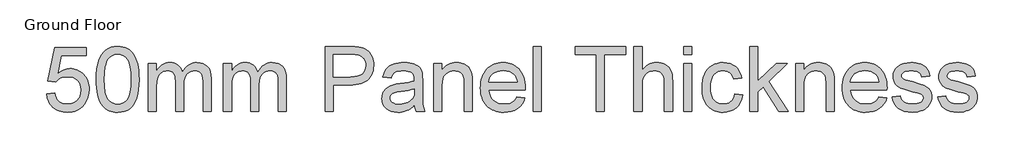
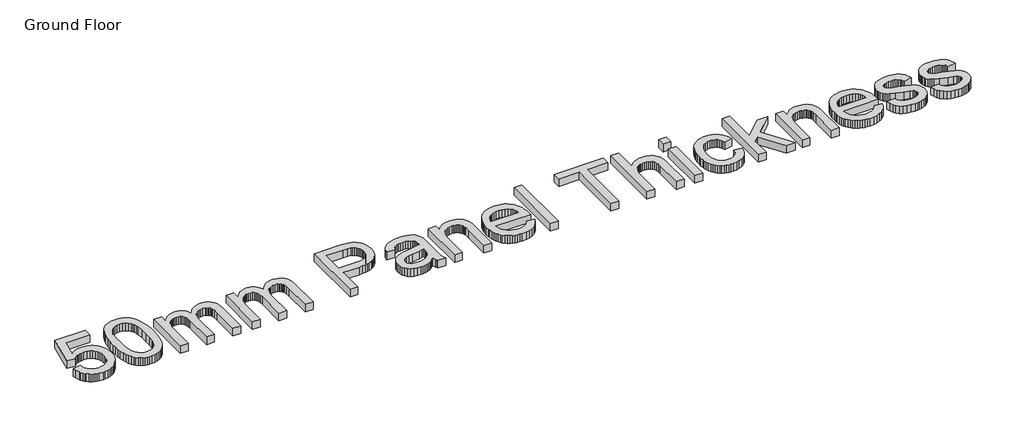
# One storey, part 6 of 8: 1 proxy.
"""IFC4 building model written with IfcOpenShell, lengths in millimetres."""

from ifc_helpers import new_model, si_unit, origin, origin_with_axes, place, context, project, spatial, polyline, outline, extrude, element, save

model = new_model("IFC4")

# Units and contexts
model_context = context("Model", 3, world=origin())
ifc_project = project(units=[si_unit("LENGTHUNIT", "METRE", prefix="MILLI")], contexts=[model_context])

# Site, building, storey
site = spatial("IfcSite", under=ifc_project)
building = spatial("IfcBuilding", under=site)
storey = spatial("IfcBuildingStorey", under=building, Name="Ground Floor", Elevation=0.0)

# Proxy
placement = place(None, origin())
element("IfcBuildingElementProxy", 1, Name="1200mm Arial", ObjectType="1200mm Arial", at=placement, inside=storey, context=model_context, shape_type="SweptSolid", body=[
    extrude(outline(polyline([(-51682.9165846, 10823.3154453), (-51536.0074937, 10841.6790817), (-51525.0323516, 10794.4518977), (-51509.0359028, 10753.4834141), (-51488.0181471, 10718.7736307), (-51461.9790846, 10690.3225476), (-51430.972515, 10668.1660313), (-51395.052238, 10652.3399482), (-51354.2182536, 10642.8442983), (-51308.4705619, 10639.6790817), (-51252.5188573, 10644.0816918), (-51203.1665846, 10657.289522), (-51160.4137437, 10679.3025725), (-51124.2603346, 10710.120843), (-51095.5133531, 10748.2200085), (-51074.9797948, 10792.0757436), (-51062.6596599, 10841.6880483), (-51058.5529482, 10897.0569226), (-51062.3996279, 10949.3861129), (-51073.939667, 10995.904934), (-51093.1730654, 11036.6133857), (-51120.0998232, 11071.511468), (-51154.8096066, 11099.5052536), (-51197.3920818, 11119.5008146), (-51247.8472487, 11131.4981513), (-51306.1751073, 11135.4972635), (-51343.5031436, 11133.9012053), (-51377.4417977, 11129.1130305), (-51407.9910697, 11121.1327394), (-51435.1509596, 11109.9603317), (-51481.2393829, 11080.6215533), (-51517.6438573, 11043.6790817), (-51664.5529482, 11062.042718), (-51536.0074937, 11668.042718), (-50966.7347664, 11668.042718), (-50966.7347664, 11521.1336271), (-51417.217721, 11521.1336271), (-51480.0557891, 11197.4745362), (-51428.2107963, 11234.6322067), (-51375.1104766, 11261.1733999), (-51320.7548303, 11277.0981158), (-51265.1438573, 11282.4063544), (-51228.6429917, 11280.7609798), (-51193.5992018, 11275.8248558), (-51160.0124875, 11267.5979826), (-51127.8828488, 11256.0803601), (-51097.2102858, 11241.2719883), (-51067.9947984, 11223.1728672), (-51040.2363866, 11201.7829968), (-51013.9350505, 11177.1023771), (-50989.9605521, 11149.8348878), (-50969.1826535, 11120.6844084), (-50951.6013547, 11089.6509389), (-50937.2166556, 11056.7344794), (-50926.0285564, 11021.9350298), (-50918.0370569, 10985.2525902), (-50913.2421572, 10946.6871605), (-50911.6438573, 10906.2387408), (-50917.4004269, 10830.130076), (-50934.6701357, 10759.3296499), (-50963.4529838, 10693.8374624), (-51003.748971, 10633.6535135), (-51032.9980832, 10600.6339379), (-51064.7937153, 10572.0169723), (-51099.1358673, 10547.8026168), (-51136.0245391, 10527.9908715), (-51175.4597309, 10512.5817362), (-51217.4414426, 10501.5752109), (-51261.9696741, 10494.9712958), (-51309.0444255, 10492.7699908), (-51384.8571918, 10498.4279276), (-51420.0130645, 10505.5003486), (-51453.3352636, 10515.4017379), (-51484.823789, 10528.1320957), (-51514.4786407, 10543.6914219), (-51542.2998188, 10562.0797165), (-51568.2873232, 10583.2969794), (-51592.0152396, 10606.8500467), (-51613.0576535, 10632.2457543), (-51631.4145649, 10659.4841021), (-51647.0859738, 10688.5650902), (-51670.3722842, 10752.2549872), (-51682.9165846, 10823.3154453)])), origin_with_axes(), (0.0, 0.0, 1.0), 150.0),
    extrude(outline(polyline([(-50783.0984028, 11089.3012408), (-50780.3994504, 11188.1223523), (-50772.3025931, 11277.4209141), (-50758.8078311, 11357.1969261), (-50739.9151641, 11427.4503885), (-50715.705292, 11488.7551648), (-50686.2589141, 11541.6851186), (-50651.5760306, 11586.24025), (-50611.6566414, 11622.420559), (-50566.3662472, 11650.4143445), (-50515.5703488, 11670.4099055), (-50459.2689461, 11682.4072422), (-50397.4620391, 11686.4063544), (-50351.0149511, 11684.0391669), (-50306.9350505, 11676.9376044), (-50265.2223374, 11665.1016669), (-50225.8768119, 11648.5313544), (-50189.8489355, 11627.5046321), (-50158.0891698, 11602.2994652), (-50130.597515, 11572.9158537), (-50107.373971, 11539.3537976), (-50087.2528772, 11501.7477962), (-50069.0685732, 11460.2323487), (-50038.5103346, 11365.4731158), (-50026.8357963, 11309.7455767), (-50018.4968403, 11245.1410845), (-50013.4934667, 11171.6596392), (-50011.8256755, 11089.3012408), (-50014.4977281, 10991.1077926), (-50022.5138857, 10902.2575618), (-50035.8741485, 10822.7505483), (-50054.5785164, 10752.5867521), (-50078.6000896, 10691.255076), (-50107.9119681, 10638.2444226), (-50142.5141521, 10593.5547919), (-50182.4066414, 10557.186184), (-50227.7508353, 10529.0040994), (-50278.7081329, 10508.8740391), (-50335.2785342, 10496.7960029), (-50397.4620391, 10492.7699908), (-50439.0671528, 10494.5184815), (-50478.3768119, 10499.7639538), (-50515.3910164, 10508.5064077), (-50550.1097664, 10520.745843), (-50582.5330619, 10536.48226), (-50612.6609028, 10555.7156584), (-50640.4932891, 10578.4460384), (-50666.030221, 10604.6733999), (-50693.4680761, 10646.2022972), (-50717.2475505, 10693.1739325), (-50737.3686443, 10745.5883058), (-50753.8313573, 10803.4454169), (-50766.6356897, 10866.745266), (-50775.7816414, 10935.487853), (-50781.2692124, 11009.6731779), (-50783.0984028, 11089.3012408)]), holes=[polyline([(-50636.1893119, 11089.5881726), (-50631.8853346, 10961.8766136), (-50618.9734028, 10858.5004595), (-50609.2894539, 10815.9381593), (-50597.4535164, 10779.4597102), (-50583.4655903, 10749.0651124), (-50567.3256755, 10724.7543658), (-50530.8853346, 10687.533929), (-50490.4279482, 10660.9479027), (-50445.9535164, 10644.9962869), (-50397.4620391, 10639.6790817), (-50348.9705619, 10645.0142202), (-50304.4961301, 10661.0196357), (-50264.0387437, 10687.6953281), (-50227.5984028, 10725.0412976), (-50211.458488, 10749.4103272), (-50197.4705619, 10779.8363082), (-50185.6346244, 10816.3192406), (-50175.9506755, 10858.8591243), (-50163.0387437, 10962.1097457), (-50158.7347664, 11089.5881726), (-50162.8952778, 11213.9193161), (-50175.3768119, 11315.4752465), (-50184.7379624, 11357.7125068), (-50196.1793687, 11394.2559638), (-50209.7010306, 11425.1056176), (-50225.3029482, 11450.261468), (-50261.133559, 11489.3021286), (-50302.0572096, 11517.1883146), (-50348.0738999, 11533.9200263), (-50399.1836301, 11539.4972635), (-50447.424042, 11534.5835561), (-50491.1452778, 11519.842434), (-50530.3473374, 11495.273897), (-50565.030221, 11460.8779453), (-50581.7081329, 11433.045559), (-50596.1623232, 11399.904934), (-50608.392792, 11361.4560703), (-50618.3995391, 11317.698968), (-50631.7418687, 11214.2600476), (-50636.1893119, 11089.5881726)])]), origin_with_axes(), (0.0, 0.0, 1.0), 150.0),
    extrude(outline(polyline([(-49846.5529482, 10511.1336271), (-49846.5529482, 11374.2245362), (-49699.6438573, 11374.2245362), (-49699.6438573, 11232.1932862), (-49679.1282323, 11266.5802713), (-49655.4563573, 11297.4344084), (-49628.6282323, 11324.7556975), (-49598.6438573, 11348.5441385), (-49565.9874298, 11367.8134034), (-49531.1431471, 11381.5771641), (-49494.1110093, 11389.8354205), (-49454.8910164, 11392.5881726), (-49412.0126428, 11389.7816207), (-49373.1871812, 11381.3619652), (-49338.4146315, 11367.329206), (-49307.6949937, 11347.683343), (-49281.117934, 11322.9803068), (-49258.7731187, 11293.7760277), (-49240.6605477, 11260.0705057), (-49226.780221, 11221.8637408), (-49200.9473907, 11261.8772795), (-49173.2315704, 11296.5556797), (-49143.63276, 11325.8989414), (-49112.1509596, 11349.9070646), (-49078.7861691, 11368.5800494), (-49043.5383886, 11381.9178956), (-49006.407618, 11389.9206033), (-48967.3938573, 11392.5881726), (-48908.5818012, 11388.149696), (-48856.9609738, 11374.8342663), (-48812.5313751, 11352.6418835), (-48775.2930051, 11321.5725476), (-48745.8555938, 11281.2675938), (-48724.8288715, 11231.3683573), (-48712.2128382, 11171.8748381), (-48708.0074937, 11102.7870362), (-48708.0074937, 10511.1336271), (-48854.9165846, 10511.1336271), (-48854.9165846, 11039.6620362), (-48858.3238999, 11112.9372493), (-48868.545846, 11162.3253885), (-48876.741336, 11180.1420611), (-48887.6985448, 11196.1474766), (-48901.4174724, 11210.341635), (-48917.8981187, 11222.7245362), (-48936.5397203, 11232.7671499), (-48956.7415136, 11239.9404453), (-49001.8256755, 11245.6790817), (-49043.457689, 11242.0027678), (-49081.4133886, 11230.973826), (-49115.6927742, 11212.5922564), (-49146.295846, 11186.858059), (-49171.4651464, 11153.0180377), (-49189.4432181, 11110.3189965), (-49200.2300612, 11058.7609354), (-49203.8256755, 10998.3438544), (-49203.8256755, 10511.1336271), (-49350.7347664, 10511.1336271), (-49350.7347664, 11056.0171499), (-49352.8598552, 11100.5274482), (-49359.2351215, 11139.0839112), (-49369.8605654, 11171.6865391), (-49384.7361869, 11198.3353317), (-49404.4537828, 11219.0482223), (-49429.6051499, 11233.8431442), (-49460.1902884, 11242.7200973), (-49496.2091982, 11245.6790817), (-49525.0637792, 11243.7064254), (-49552.8064994, 11237.7884567), (-49579.4373588, 11227.9251754), (-49604.9563573, 11214.1165817), (-49628.1978346, 11196.5061413), (-49647.9961301, 11175.2373203), (-49664.3512437, 11150.3101186), (-49677.2631755, 11121.7245362), (-49687.0547238, 11087.9562479), (-49694.0486869, 11047.4809283), (-49699.6438573, 10946.4091953), (-49699.6438573, 10511.1336271), (-49846.5529482, 10511.1336271)])), origin_with_axes(), (0.0, 0.0, 1.0), 150.0),
    extrude(outline(polyline([(-48487.6438573, 10511.1336271), (-48487.6438573, 11374.2245362), (-48340.7347664, 11374.2245362), (-48340.7347664, 11232.1932862), (-48320.2191414, 11266.5802713), (-48296.5472664, 11297.4344084), (-48269.7191414, 11324.7556975), (-48239.7347664, 11348.5441385), (-48207.0783389, 11367.8134034), (-48172.2340562, 11381.5771641), (-48135.2019184, 11389.8354205), (-48095.9819255, 11392.5881726), (-48053.1035519, 11389.7816207), (-48014.2780903, 11381.3619652), (-47979.5055406, 11367.329206), (-47948.7859028, 11347.683343), (-47922.2088431, 11322.9803068), (-47899.8640278, 11293.7760277), (-47881.7514568, 11260.0705057), (-47867.8711301, 11221.8637408), (-47842.0382998, 11261.8772795), (-47814.3224795, 11296.5556797), (-47784.7236691, 11325.8989414), (-47753.2418687, 11349.9070646), (-47719.8770782, 11368.5800494), (-47684.6292977, 11381.9178956), (-47647.4985271, 11389.9206033), (-47608.4847664, 11392.5881726), (-47549.6727103, 11388.149696), (-47498.0518829, 11374.8342663), (-47453.6222842, 11352.6418835), (-47416.3839141, 11321.5725476), (-47386.9465029, 11281.2675938), (-47365.9197806, 11231.3683573), (-47353.3037472, 11171.8748381), (-47349.0984028, 11102.7870362), (-47349.0984028, 10511.1336271), (-47496.0074937, 10511.1336271), (-47496.0074937, 11039.6620362), (-47499.414809, 11112.9372493), (-47509.6367551, 11162.3253885), (-47517.8322451, 11180.1420611), (-47528.7894539, 11196.1474766), (-47542.5083815, 11210.341635), (-47558.9890278, 11222.7245362), (-47577.6306293, 11232.7671499), (-47597.8324227, 11239.9404453), (-47642.9165846, 11245.6790817), (-47684.5485981, 11242.0027678), (-47722.5042977, 11230.973826), (-47756.7836833, 11212.5922564), (-47787.3867551, 11186.858059), (-47812.5560555, 11153.0180377), (-47830.5341272, 11110.3189965), (-47841.3209703, 11058.7609354), (-47844.9165846, 10998.3438544), (-47844.9165846, 10511.1336271), (-47991.8256755, 10511.1336271), (-47991.8256755, 11056.0171499), (-47993.9507643, 11100.5274482), (-48000.3260306, 11139.0839112), (-48010.9514745, 11171.6865391), (-48025.827096, 11198.3353317), (-48045.5446918, 11219.0482223), (-48070.696059, 11233.8431442), (-48101.2811975, 11242.7200973), (-48137.3001073, 11245.6790817), (-48166.1546883, 11243.7064254), (-48193.8974085, 11237.7884567), (-48220.5282678, 11227.9251754), (-48246.0472664, 11214.1165817), (-48269.2887437, 11196.5061413), (-48289.0870391, 11175.2373203), (-48305.4421528, 11150.3101186), (-48318.3540846, 11121.7245362), (-48328.1456329, 11087.9562479), (-48335.139596, 11047.4809283), (-48340.7347664, 10946.4091953), (-48340.7347664, 10511.1336271), (-48487.6438573, 10511.1336271)])), origin_with_axes(), (0.0, 0.0, 1.0), 150.0),
    extrude(outline(polyline([(-46651.280221, 10511.1336271), (-46651.280221, 11686.4063544), (-46215.717721, 11686.4063544), (-46114.2873232, 11683.6087692), (-46040.1154482, 11675.2160135), (-45999.2366308, 11666.4018267), (-45961.8189284, 11654.3058573), (-45927.862341, 11638.9281051), (-45897.3668687, 11620.2685703), (-45870.0097132, 11597.9416882), (-45845.4680761, 11571.5618942), (-45823.7419575, 11541.1291882), (-45804.8313573, 11506.6435703), (-45789.5163715, 11469.2438011), (-45778.577096, 11430.0686413), (-45772.0135306, 11389.1180909), (-45769.8256755, 11346.3921499), (-45775.7346776, 11274.2467308), (-45783.1209303, 11240.3394599), (-45793.461684, 11207.8758146), (-45806.7569388, 11176.8557951), (-45823.0066947, 11147.2794013), (-45842.2109516, 11119.1466332), (-45864.3697096, 11092.4574908), (-45890.3841139, 11068.1131193), (-45921.1553097, 11047.0146641), (-45956.6832971, 11029.162125), (-45996.9680761, 11014.5555021), (-46042.0096466, 11003.1947955), (-46091.8080086, 10995.080005), (-46146.3631622, 10990.2111307), (-46205.6751073, 10988.5881726), (-46504.3711301, 10988.5881726), (-46504.3711301, 10511.1336271), (-46651.280221, 10511.1336271)]), holes=[polyline([(-46504.3711301, 11135.4972635), (-46197.0671528, 11135.4972635), (-46126.4101926, 11138.8687124), (-46066.8001073, 11148.983059), (-46018.2368971, 11165.8403033), (-45980.7205619, 11189.4404453), (-45952.7267764, 11219.1558217), (-45932.7312153, 11254.3587692), (-45920.7338786, 11295.0492877), (-45916.7347664, 11341.2273771), (-45919.0929873, 11375.5157294), (-45926.1676499, 11407.2216953), (-45937.9587543, 11436.3452749), (-45954.4663005, 11462.886468), (-45974.8115597, 11485.9844794), (-45998.1158034, 11504.7785135), (-46024.3790313, 11519.2685703), (-46053.6012437, 11529.4546499), (-46110.2702778, 11536.9866101), (-46200.5103346, 11539.4972635), (-46504.3711301, 11539.4972635), (-46504.3711301, 11135.4972635)])]), origin_with_axes(), (0.0, 0.0, 1.0), 150.0),
    extrude(outline(polyline([(-45035.280221, 10621.3154453), (-45070.115537, 10588.6231513), (-45105.470917, 10561.1314965), (-45141.3463609, 10538.8404808), (-45177.7418687, 10521.7501044), (-45215.0699049, 10509.0713047), (-45253.742934, 10500.0150192), (-45293.7609561, 10494.5812479), (-45335.123971, 10492.7699908), (-45400.5354589, 10497.1277678), (-45457.8949227, 10510.2010987), (-45507.2023623, 10531.9899837), (-45548.4577778, 10562.4944226), (-45581.0335058, 10599.7776257), (-45604.3018829, 10641.9028033), (-45618.2629092, 10688.8699553), (-45622.9165846, 10740.6790817), (-45621.1591272, 10771.8291172), (-45615.8867551, 10801.5803601), (-45607.0994681, 10829.9328104), (-45594.7972664, 10856.886468), (-45579.6347132, 10881.8495362), (-45562.2663715, 10904.230218), (-45542.6922416, 10924.0285135), (-45520.9123232, 10941.2444226), (-45472.3132465, 10969.2202749), (-45418.0472664, 10989.448968), (-45365.1800789, 11000.7110419), (-45290.936471, 11011.542718), (-45140.7276641, 11034.7841953), (-45082.7315704, 11047.911326), (-45036.1410164, 11062.042718), (-45035.280221, 11094.7529453), (-45037.8088076, 11130.3683573), (-45045.3945676, 11160.3168658), (-45058.0375008, 11184.5984709), (-45075.7376073, 11203.2131726), (-45106.3317124, 11221.7920078), (-45143.5969823, 11235.0626044), (-45187.533417, 11243.0249624), (-45238.1410164, 11245.6790817), (-45285.1978346, 11243.9126577), (-45325.655221, 11238.6133857), (-45359.5131755, 11229.7812656), (-45386.7716982, 11217.4162976), (-45409.1703133, 11200.5500867), (-45428.4485448, 11178.2142379), (-45444.6063928, 11150.4087514), (-45457.6438573, 11117.1336271), (-45604.5529482, 11135.4972635), (-45593.371574, 11177.8197067), (-45579.0518829, 11215.8381726), (-45561.5938751, 11249.5526612), (-45540.9975505, 11278.9631726), (-45516.3752139, 11304.6615036), (-45486.8391698, 11327.239451), (-45452.3894184, 11346.6970149), (-45413.0259596, 11363.0341953), (-45369.5468225, 11375.9640604), (-45322.7500363, 11385.1996783), (-45272.6356009, 11390.741049), (-45219.2035164, 11392.5881726), (-45166.9729589, 11390.9562479), (-45119.8892409, 11386.0604737), (-45077.9523623, 11377.9008502), (-45041.1623232, 11366.4773771), (-45009.2142586, 11352.5880838), (-44981.8033034, 11337.0309993), (-44958.9294575, 11319.8061236), (-44940.592721, 11300.9134567), (-44925.7260661, 11279.8867344), (-44913.2624653, 11256.2596925), (-44895.5444255, 11201.2046499), (-44890.1644539, 11150.417718), (-44888.3711301, 11072.6591953), (-44888.3711301, 10889.8836271), (-44886.5060732, 10730.6723345), (-44880.9109028, 10634.6577749), (-44869.8640278, 10571.5686413), (-44851.6438573, 10511.1336271), (-44998.5529482, 10511.1336271), (-45011.608346, 10535.6662976), (-45022.0813573, 10562.2074908), (-45035.280221, 10621.3154453)]), holes=[polyline([(-45035.280221, 10915.1336271), (-45079.6829198, 10902.4189609), (-45133.9847664, 10890.6726896), (-45272.2859028, 10870.0853317), (-45348.502167, 10858.8232578), (-45398.6793687, 10846.2699908), (-45431.5689284, 10829.9866101), (-45455.9222664, 10807.5341953), (-45470.9861869, 10780.6343374), (-45476.0074937, 10751.0086271), (-45473.2726748, 10728.1796144), (-45465.0682181, 10707.3232578), (-45451.3941237, 10688.4395575), (-45432.2503914, 10671.5285135), (-45407.8163538, 10657.5943871), (-45378.2713431, 10647.6414396), (-45343.6153595, 10641.6696712), (-45303.8484028, 10639.6790817), (-45263.2475505, 10641.8759034), (-45224.9421528, 10648.4663686), (-45188.9322096, 10659.4504773), (-45155.217721, 10674.8282294), (-45124.8029482, 10693.3263651), (-45098.6921528, 10713.6716243), (-45076.8853346, 10735.8640071), (-45059.3824937, 10759.9035135), (-45049.2143474, 10781.4233999), (-45041.9513857, 10807.5341953), (-45037.5936088, 10838.2358999), (-45036.1410164, 10873.5285135), (-45035.280221, 10915.1336271)])]), origin_with_axes(), (0.0, 0.0, 1.0), 150.0),
    extrude(outline(polyline([(-44686.3711301, 10511.1336271), (-44686.3711301, 11374.2245362), (-44539.4620391, 11374.2245362), (-44539.4620391, 11253.7131726), (-44515.2252671, 11286.2620007), (-44488.424042, 11314.4709851), (-44459.0583637, 11338.3401257), (-44427.1282323, 11357.8694226), (-44392.6336478, 11373.0588757), (-44355.5746102, 11383.9084851), (-44315.9511194, 11390.4182507), (-44273.7631755, 11392.5881726), (-44236.7938041, 11390.8396818), (-44201.3487579, 11385.5942095), (-44167.428037, 11376.8517557), (-44135.0316414, 11364.6123203), (-44105.387998, 11349.5304666), (-44079.7255335, 11332.2607578), (-44058.044248, 11312.8031939), (-44040.3441414, 11291.1577749), (-44013.6236159, 11241.4109709), (-43996.3001073, 11183.1279453), (-43990.489738, 11127.3914396), (-43988.5529482, 11041.0966953), (-43988.5529482, 10511.1336271), (-44135.4620391, 10511.1336271), (-44135.4620391, 11021.2983999), (-44139.6942835, 11097.2635987), (-44144.9845889, 11127.0148416), (-44152.3910164, 11151.2785135), (-44162.4784632, 11171.7134389), (-44175.8118261, 11189.9784425), (-44192.3911052, 11206.0735242), (-44212.2163005, 11219.998684), (-44234.605949, 11231.233858), (-44258.8785874, 11239.2589823), (-44285.034216, 11244.0740568), (-44313.0728346, 11245.6790817), (-44357.6817657, 11242.0745007), (-44399.1165136, 11231.2607578), (-44437.3770782, 11213.237853), (-44472.4634596, 11188.0057862), (-44488.1662517, 11171.9689876), (-44501.7753382, 11152.6952394), (-44513.290719, 11130.1845416), (-44522.7123943, 11104.4368942), (-44535.2746279, 11043.2307507), (-44539.4620391, 10969.076809), (-44539.4620391, 10511.1336271), (-44686.3711301, 10511.1336271)])), origin_with_axes(), (0.0, 0.0, 1.0), 150.0),
    extrude(outline(polyline([(-43182.2745391, 10768.2245362), (-43038.2347664, 10749.8608999), (-43060.3195498, 10692.1696712), (-43090.133559, 10641.3289396), (-43127.6767941, 10597.3387053), (-43172.9492551, 10560.198968), (-43225.4846776, 10530.6987905), (-43284.8167977, 10509.6272351), (-43350.9456151, 10496.9843019), (-43423.8711301, 10492.7699908), (-43470.6903328, 10494.5879728), (-43515.025782, 10500.041919), (-43556.8774777, 10509.1318294), (-43596.2454198, 10521.8577038), (-43633.1296084, 10538.2195424), (-43667.5300434, 10558.2173452), (-43699.4467249, 10581.851112), (-43728.8796528, 10609.120843), (-43755.3087632, 10639.6723567), (-43778.2139923, 10673.1514716), (-43797.5953399, 10709.5581877), (-43813.4528062, 10748.892505), (-43825.7863911, 10791.1544235), (-43834.5960945, 10836.3439432), (-43839.8819166, 10884.4610641), (-43841.6438573, 10935.5057862), (-43839.8639834, 10988.2877908), (-43834.5243616, 11038.0301115), (-43825.6249919, 11084.7327482), (-43813.1658744, 11128.395701), (-43797.147009, 11169.0189698), (-43777.5683957, 11206.6025547), (-43754.4300345, 11241.1464556), (-43727.7319255, 11272.6506726), (-43698.1958815, 11300.7610242), (-43666.5437153, 11325.1233288), (-43632.7754269, 11345.7375867), (-43596.8910164, 11362.6037976), (-43558.8904838, 11375.7219617), (-43518.7738289, 11385.0920788), (-43476.5410519, 11390.7141492), (-43432.1921528, 11392.5881726), (-43389.2936043, 11390.7186325), (-43348.3990953, 11385.1100121), (-43309.5086256, 11375.7623114), (-43272.6221954, 11362.6755305), (-43237.7398046, 11345.8496694), (-43204.8614532, 11325.284728), (-43173.9871412, 11300.9807063), (-43145.1168687, 11272.9376044), (-43118.9903817, 11241.5051204), (-43096.3474262, 11207.0329524), (-43077.1880024, 11169.5211005), (-43061.5121102, 11128.9695646), (-43049.3197496, 11085.3783448), (-43040.6109205, 11038.7474411), (-43035.3856231, 10989.0768533), (-43033.6438573, 10936.3665817), (-43034.5046528, 10896.7699908), (-43694.7347664, 10896.7699908), (-43686.2254447, 10838.1462337), (-43669.305434, 10786.8033715), (-43643.9747345, 10742.7414041), (-43610.233346, 10705.9603317), (-43569.9463254, 10676.9622848), (-43524.9787295, 10656.2493942), (-43475.3305583, 10643.8216598), (-43421.0018119, 10639.6790817), (-43380.3650931, 10641.5979382), (-43342.8128914, 10647.3545078), (-43308.3452068, 10656.9487905), (-43276.9620391, 10670.3807862), (-43248.6633886, 10688.0091598), (-43223.4492551, 10710.192576), (-43201.3196386, 10736.9310348), (-43182.2745391, 10768.2245362)]), holes=[polyline([(-43694.7347664, 11043.6790817), (-43180.5529482, 11043.6790817), (-43188.1028417, 11085.2483288), (-43200.4229766, 11121.2941385), (-43217.5133531, 11151.8165107), (-43239.373971, 11176.8154453), (-43279.4368261, 11206.9432862), (-43325.0231187, 11228.4631726), (-43376.1328488, 11241.3751044), (-43432.7660164, 11245.6790817), (-43484.4227103, 11242.2448665), (-43531.7933602, 11231.9422209), (-43574.877966, 11214.7711449), (-43613.6765278, 11190.7316385), (-43646.2343225, 11160.9355625), (-43670.5966272, 11126.4947777), (-43686.7634418, 11087.4092841), (-43694.7347664, 11043.6790817)])]), origin_with_axes(), (0.0, 0.0, 1.0), 150.0),
    extrude(outline(polyline([(-42886.7347664, 10511.1336271), (-42886.7347664, 11686.4063544), (-42739.8256755, 11686.4063544), (-42739.8256755, 10511.1336271), (-42886.7347664, 10511.1336271)])), origin_with_axes(), (0.0, 0.0, 1.0), 150.0),
    extrude(outline(polyline([(-41748.1893119, 10511.1336271), (-41748.1893119, 11539.4972635), (-42133.8256755, 11539.4972635), (-42133.8256755, 11686.4063544), (-41215.6438573, 11686.4063544), (-41215.6438573, 11539.4972635), (-41601.280221, 11539.4972635), (-41601.280221, 10511.1336271), (-41748.1893119, 10511.1336271)])), origin_with_axes(), (0.0, 0.0, 1.0), 150.0),
    extrude(outline(polyline([(-41068.7347664, 10511.1336271), (-41068.7347664, 11686.4063544), (-40921.8256755, 11686.4063544), (-40921.8256755, 11254.2870362), (-40895.6745303, 11286.7013651), (-40867.8645605, 11314.7937834), (-40838.3957661, 11338.5642912), (-40807.2681471, 11358.0128885), (-40774.4817036, 11373.1395753), (-40740.0364355, 11383.9443516), (-40703.9323428, 11390.4272173), (-40666.1694255, 11392.5881726), (-40620.2424014, 11390.2299517), (-40577.4357607, 11383.1552891), (-40537.7495036, 11371.3641847), (-40501.1836301, 11354.8566385), (-40468.6706684, 11334.188581), (-40441.1431471, 11309.9159425), (-40418.6010661, 11282.038723), (-40401.0444255, 11250.5569226), (-40387.8634951, 11213.5247848), (-40378.4485448, 11168.9965533), (-40372.7995747, 11116.972228), (-40370.9165846, 11057.451809), (-40370.9165846, 10511.1336271), (-40517.8256755, 10511.1336271), (-40517.8256755, 11042.2444226), (-40520.7487934, 11091.8477607), (-40529.5181471, 11134.2060703), (-40544.1337366, 11169.3193516), (-40564.5955619, 11197.1876044), (-40590.4194255, 11218.4026257), (-40621.1211301, 11233.5562124), (-40656.7006755, 11242.6483644), (-40697.1580619, 11245.6790817), (-40728.6757288, 11243.6346925), (-40759.242934, 11237.5015249), (-40788.8596776, 11227.2795788), (-40817.5259596, 11212.9688544), (-40843.6905548, 11195.1611484), (-40865.802238, 11174.4482578), (-40883.8610093, 11150.8301825), (-40897.8668687, 11124.3069226), (-40908.3488467, 11093.6590178), (-40915.8359738, 11057.6670078), (-40920.3282501, 11016.3308928), (-40921.8256755, 10969.6506726), (-40921.8256755, 10511.1336271), (-41068.7347664, 10511.1336271)])), origin_with_axes(), (0.0, 0.0, 1.0), 150.0),
    extrude(outline(polyline([(-40168.9165846, 11539.4972635), (-40168.9165846, 11686.4063544), (-40022.0074937, 11686.4063544), (-40022.0074937, 11539.4972635), (-40168.9165846, 11539.4972635)])), origin_with_axes(), (0.0, 0.0, 1.0), 150.0),
    extrude(outline(polyline([(-40168.9165846, 10511.1336271), (-40168.9165846, 11374.2245362), (-40022.0074937, 11374.2245362), (-40022.0074937, 10511.1336271), (-40168.9165846, 10511.1336271)])), origin_with_axes(), (0.0, 0.0, 1.0), 150.0),
    extrude(outline(polyline([(-39250.7347664, 10823.3154453), (-39103.8256755, 10804.951809), (-39119.8041911, 10735.630875), (-39144.7851926, 10674.2902323), (-39178.7686798, 10620.9298807), (-39221.7546528, 10575.5498203), (-39271.9318545, 10539.3336449), (-39327.4890278, 10513.4649482), (-39388.4261727, 10497.9437301), (-39454.7432891, 10492.7699908), (-39497.0052077, 10494.5745229), (-39537.1375541, 10499.9881193), (-39575.1403284, 10509.01078), (-39611.0135306, 10521.642505), (-39644.7571608, 10537.8832942), (-39676.3712188, 10557.7331477), (-39705.8557048, 10581.1920655), (-39733.2106187, 10608.2600476), (-39757.8576135, 10638.6994785), (-39779.2183424, 10672.2727429), (-39797.2928053, 10708.9798407), (-39812.0810022, 10748.820772), (-39823.5829331, 10791.7955368), (-39831.7985981, 10837.904135), (-39836.7279971, 10887.1465666), (-39838.3711301, 10939.5228317), (-39835.5645782, 11007.068375), (-39827.1449227, 11070.2561413), (-39813.1121634, 11129.0861307), (-39793.4663005, 11183.558343), (-39768.0728346, 11232.5788509), (-39736.7972664, 11275.0537266), (-39699.639596, 11310.9829702), (-39656.5998232, 11340.3665817), (-39609.6237046, 11363.2135277), (-39560.6569965, 11379.5327749), (-39509.699699, 11389.3243232), (-39456.7518119, 11392.5881726), (-39391.5734561, 11388.1048629), (-39332.617934, 11374.654934), (-39279.8852458, 11352.2383857), (-39233.3753914, 11320.855218), (-39193.8774333, 11281.2227607), (-39162.180434, 11234.058343), (-39138.2843936, 11179.3619652), (-39122.1893119, 11117.1336271), (-39269.0984028, 11098.7699908), (-39280.5667089, 11133.0852429), (-39295.7471954, 11162.8633857), (-39314.6398623, 11188.104419), (-39337.2447096, 11208.808343), (-39362.9878737, 11224.9392912), (-39391.2954909, 11236.461397), (-39422.1675612, 11243.3746605), (-39455.6040846, 11245.6790817), (-39505.5212543, 11241.1419723), (-39550.5426499, 11227.5306442), (-39590.6682714, 11204.8450973), (-39625.8981187, 11173.0853317), (-39641.2646626, 11153.6188011), (-39654.5823339, 11131.5160845), (-39675.071059, 11079.402093), (-39687.3642941, 11016.7433573), (-39691.4620391, 10943.5398771), (-39687.4539603, 10869.2335029), (-39675.4297238, 10805.8484709), (-39655.3893296, 10753.3847813), (-39642.3630734, 10731.2484398), (-39627.3327778, 10711.842434), (-39592.8023268, 10680.2709673), (-39553.3402352, 10657.7199198), (-39508.9465029, 10644.1892912), (-39459.6211301, 10639.6790817), (-39419.8721066, 10642.4946002), (-39383.5483318, 10650.9411555), (-39350.6498055, 10665.0187479), (-39321.1765278, 10684.7273771), (-39295.9534276, 10710.2822422), (-39275.805434, 10741.8985419), (-39260.732547, 10779.5762763), (-39250.7347664, 10823.3154453)])), origin_with_axes(), (0.0, 0.0, 1.0), 150.0),
    extrude(outline(polyline([(-38975.280221, 10511.1336271), (-38975.280221, 11686.4063544), (-38828.3711301, 11686.4063544), (-38828.3711301, 11054.8694226), (-38498.9734028, 11374.2245362), (-38295.8256755, 11374.2245362), (-38629.2404482, 11050.8523771), (-38277.4620391, 10511.1336271), (-38449.0472664, 10511.1336271), (-38734.5444255, 10948.7046499), (-38828.3711301, 10857.7472635), (-38828.3711301, 10511.1336271), (-38975.280221, 10511.1336271)])), origin_with_axes(), (0.0, 0.0, 1.0), 150.0),
    extrude(outline(polyline([(-38148.9165846, 10511.1336271), (-38148.9165846, 11374.2245362), (-38002.0074937, 11374.2245362), (-38002.0074937, 11253.7131726), (-37977.7707217, 11286.2620007), (-37950.9694965, 11314.4709851), (-37921.6038183, 11338.3401257), (-37889.6736869, 11357.8694226), (-37855.1791024, 11373.0588757), (-37818.1200647, 11383.9084851), (-37778.496574, 11390.4182507), (-37736.3086301, 11392.5881726), (-37699.3392586, 11390.8396818), (-37663.8942124, 11385.5942095), (-37629.9734916, 11376.8517557), (-37597.577096, 11364.6123203), (-37567.9334525, 11349.5304666), (-37542.270988, 11332.2607578), (-37520.5897025, 11312.8031939), (-37502.889596, 11291.1577749), (-37476.1690704, 11241.4109709), (-37458.8455619, 11183.1279453), (-37453.0351926, 11127.3914396), (-37451.0984028, 11041.0966953), (-37451.0984028, 10511.1336271), (-37598.0074937, 10511.1336271), (-37598.0074937, 11021.2983999), (-37602.239738, 11097.2635987), (-37607.5300434, 11127.0148416), (-37614.936471, 11151.2785135), (-37625.0239177, 11171.7134389), (-37638.3572806, 11189.9784425), (-37654.9365597, 11206.0735242), (-37674.7617551, 11219.998684), (-37697.1514035, 11231.233858), (-37721.424042, 11239.2589823), (-37747.5796705, 11244.0740568), (-37775.6182891, 11245.6790817), (-37820.2272203, 11242.0745007), (-37861.6619681, 11231.2607578), (-37899.9225328, 11213.237853), (-37935.0089141, 11188.0057862), (-37950.7117062, 11171.9689876), (-37964.3207927, 11152.6952394), (-37975.8361736, 11130.1845416), (-37985.2578488, 11104.4368942), (-37997.8200825, 11043.2307507), (-38002.0074937, 10969.076809), (-38002.0074937, 10511.1336271), (-38148.9165846, 10511.1336271)])), origin_with_axes(), (0.0, 0.0, 1.0), 150.0),
    extrude(outline(polyline([(-36644.8199937, 10768.2245362), (-36500.780221, 10749.8608999), (-36522.8650043, 10692.1696712), (-36552.6790136, 10641.3289396), (-36590.2222487, 10597.3387053), (-36635.4947096, 10560.198968), (-36688.0301322, 10530.6987905), (-36747.3622522, 10509.6272351), (-36813.4910697, 10496.9843019), (-36886.4165846, 10492.7699908), (-36933.2357874, 10494.5879728), (-36977.5712366, 10500.041919), (-37019.4229323, 10509.1318294), (-37058.7908744, 10521.8577038), (-37095.6750629, 10538.2195424), (-37130.075498, 10558.2173452), (-37161.9921794, 10581.851112), (-37191.4251073, 10609.120843), (-37217.8542178, 10639.6723567), (-37240.7594468, 10673.1514716), (-37260.1407945, 10709.5581877), (-37275.9982607, 10748.892505), (-37288.3318456, 10791.1544235), (-37297.1415491, 10836.3439432), (-37302.4273712, 10884.4610641), (-37304.1893119, 10935.5057862), (-37302.4094379, 10988.2877908), (-37297.0698161, 11038.0301115), (-37288.1704465, 11084.7327482), (-37275.7113289, 11128.395701), (-37259.6924635, 11169.0189698), (-37240.1138502, 11206.6025547), (-37216.9754891, 11241.1464556), (-37190.2773801, 11272.6506726), (-37160.741336, 11300.7610242), (-37129.0891698, 11325.1233288), (-37095.3208815, 11345.7375867), (-37059.436471, 11362.6037976), (-37021.4359383, 11375.7219617), (-36981.3192835, 11385.0920788), (-36939.0865065, 11390.7141492), (-36894.7376073, 11392.5881726), (-36851.8390589, 11390.7186325), (-36810.9445498, 11385.1100121), (-36772.0540802, 11375.7623114), (-36735.1676499, 11362.6755305), (-36700.2852591, 11345.8496694), (-36667.4069078, 11325.284728), (-36636.5325958, 11300.9807063), (-36607.6623232, 11272.9376044), (-36581.5358362, 11241.5051204), (-36558.8928808, 11207.0329524), (-36539.7334569, 11169.5211005), (-36524.0575647, 11128.9695646), (-36511.8652041, 11085.3783448), (-36503.1563751, 11038.7474411), (-36497.9310777, 10989.0768533), (-36496.1893119, 10936.3665817), (-36497.0501073, 10896.7699908), (-37157.280221, 10896.7699908), (-37148.7708992, 10838.1462337), (-37131.8508886, 10786.8033715), (-37106.520189, 10742.7414041), (-37072.7788005, 10705.9603317), (-37032.4917799, 10676.9622848), (-36987.524184, 10656.2493942), (-36937.8760129, 10643.8216598), (-36883.5472664, 10639.6790817), (-36842.9105477, 10641.5979382), (-36805.358346, 10647.3545078), (-36770.8906613, 10656.9487905), (-36739.5074937, 10670.3807862), (-36711.2088431, 10688.0091598), (-36685.9947096, 10710.192576), (-36663.8650931, 10736.9310348), (-36644.8199937, 10768.2245362)]), holes=[polyline([(-37157.280221, 11043.6790817), (-36643.0984028, 11043.6790817), (-36650.6482963, 11085.2483288), (-36662.9684312, 11121.2941385), (-36680.0588076, 11151.8165107), (-36701.9194255, 11176.8154453), (-36741.9822806, 11206.9432862), (-36787.5685732, 11228.4631726), (-36838.6783034, 11241.3751044), (-36895.311471, 11245.6790817), (-36946.9681649, 11242.2448665), (-36994.3388147, 11231.9422209), (-37037.4234205, 11214.7711449), (-37076.2219823, 11190.7316385), (-37108.7797771, 11160.9355625), (-37133.1420818, 11126.4947777), (-37149.3088964, 11087.4092841), (-37157.280221, 11043.6790817)])]), origin_with_axes(), (0.0, 0.0, 1.0), 150.0),
    extrude(outline(polyline([(-36404.3711301, 10768.2245362), (-36257.4620391, 10786.5881726), (-36248.585086, 10753.0888828), (-36234.2922948, 10723.7501044), (-36214.5836656, 10698.5718374), (-36189.4591982, 10677.5540817), (-36158.8471599, 10660.9837692), (-36122.6758176, 10649.1478317), (-36080.9451713, 10642.0462692), (-36033.655221, 10639.6790817), (-35986.4190704, 10641.8490036), (-35945.7106187, 10648.3587692), (-35911.5298659, 10659.2083786), (-35883.8768119, 10674.3978317), (-35862.5362579, 10692.5104027), (-35847.2930051, 10712.1293658), (-35838.1470534, 10733.2547209), (-35835.0984028, 10755.886468), (-35838.1649866, 10775.72063), (-35847.364738, 10793.3310703), (-35862.697657, 10808.7177891), (-35884.1637437, 10821.8807862), (-35939.1829198, 10840.5313544), (-36035.3768119, 10863.7728317), (-36169.4457039, 10902.5444936), (-36256.6012437, 10935.6492521), (-36286.5228524, 10952.2464645), (-36312.5888147, 10971.7667948), (-36334.7991308, 10994.2102429), (-36353.1538005, 11019.576809), (-36367.5272913, 11047.1043303), (-36377.7940704, 11076.0306442), (-36383.9541379, 11106.3557507), (-36386.0074937, 11138.0796499), (-36384.3576357, 11167.0866634), (-36379.4080619, 11194.9997493), (-36371.1587721, 11221.8189077), (-36359.6097664, 11247.5441385), (-36345.2093758, 11271.6553779), (-36328.4059312, 11293.6325618), (-36309.1994326, 11313.4756904), (-36287.5898801, 11331.1847635), (-36247.0248943, 11354.820772), (-36194.1935732, 11374.654934), (-36133.1129624, 11388.1048629), (-36067.8001073, 11392.5881726), (-36018.4299014, 11390.7858821), (-35972.1800789, 11385.3790107), (-35929.05064, 11376.3675582), (-35889.0415846, 11363.7515249), (-35853.1033744, 11348.0599411), (-35822.186471, 11329.8218374), (-35796.2908744, 11309.0372138), (-35775.4165846, 11285.7060703), (-35758.4876073, 11259.0124446), (-35744.4279482, 11228.1403743), (-35733.2376073, 11193.0898594), (-35724.9165846, 11153.8608999), (-35871.8256755, 11135.4972635), (-35878.8286052, 11160.0389006), (-35890.3686443, 11181.7291527), (-35906.4457927, 11200.5680199), (-35927.0600505, 11216.5555021), (-35952.3010839, 11229.2970682), (-35982.258559, 11238.3981868), (-36016.9324759, 11243.858858), (-36056.3228346, 11245.6790817), (-36102.0167266, 11243.9395575), (-36140.6807891, 11238.7209851), (-36172.3150221, 11230.0233644), (-36196.9194255, 11217.8466953), (-36215.3727281, 11203.3566385), (-36228.5536585, 11187.7188544), (-36236.4622167, 11170.933343), (-36239.0984028, 11153.0001044), (-36234.7226926, 11130.4042237), (-36221.5955619, 11110.2472635), (-36199.1431471, 11092.2422919), (-36166.7915846, 11077.823968), (-36040.2546528, 11046.5483999), (-35910.4538715, 11008.1712692), (-35824.6253914, 10977.3978317), (-35794.4258176, 10962.3877109), (-35767.6694255, 10944.3289396), (-35744.3562153, 10923.2215178), (-35724.4861869, 10899.0654453), (-35708.6063041, 10871.8248558), (-35697.2635306, 10841.4638828), (-35690.4578666, 10807.9825263), (-35688.1893119, 10771.3807862), (-35690.8523978, 10734.617647), (-35698.8416556, 10698.9305021), (-35712.1570853, 10664.3193516), (-35730.7986869, 10630.7841953), (-35754.4615953, 10599.6610597), (-35782.8409454, 10572.2859709), (-35815.9367373, 10548.658929), (-35853.748971, 10528.779934), (-35895.2464852, 10513.0255838), (-35939.3981187, 10501.7724766), (-35986.2038715, 10495.0206122), (-36035.6637437, 10492.7699908), (-36114.7313928, 10497.1098345), (-36183.7922948, 10510.1293658), (-36242.8464497, 10531.8285845), (-36291.8938573, 10562.2074908), (-36331.9567124, 10601.1226186), (-36364.0572096, 10648.4305021), (-36388.1953488, 10704.1311413), (-36404.3711301, 10768.2245362)])), origin_with_axes(), (0.0, 0.0, 1.0), 150.0),
    extrude(outline(polyline([(-35578.0074937, 10768.2245362), (-35431.0984028, 10786.5881726), (-35422.2214497, 10753.0888828), (-35407.9286585, 10723.7501044), (-35388.2200292, 10698.5718374), (-35363.0955619, 10677.5540817), (-35332.4835235, 10660.9837692), (-35296.3121812, 10649.1478317), (-35254.5815349, 10642.0462692), (-35207.2915846, 10639.6790817), (-35160.055434, 10641.8490036), (-35119.3469823, 10648.3587692), (-35085.1662295, 10659.2083786), (-35057.5131755, 10674.3978317), (-35036.1726215, 10692.5104027), (-35020.9293687, 10712.1293658), (-35011.783417, 10733.2547209), (-35008.7347664, 10755.886468), (-35011.8013502, 10775.72063), (-35021.0011016, 10793.3310703), (-35036.3340207, 10808.7177891), (-35057.8001073, 10821.8807862), (-35112.8192835, 10840.5313544), (-35209.0131755, 10863.7728317), (-35343.0820676, 10902.5444936), (-35430.2376073, 10935.6492521), (-35460.159216, 10952.2464645), (-35486.2251784, 10971.7667948), (-35508.4354944, 10994.2102429), (-35526.7901641, 11019.576809), (-35541.1636549, 11047.1043303), (-35551.430434, 11076.0306442), (-35557.5905015, 11106.3557507), (-35559.6438573, 11138.0796499), (-35557.9939994, 11167.0866634), (-35553.0444255, 11194.9997493), (-35544.7951357, 11221.8189077), (-35533.2461301, 11247.5441385), (-35518.8457394, 11271.6553779), (-35502.0422948, 11293.6325618), (-35482.8357963, 11313.4756904), (-35461.2262437, 11331.1847635), (-35420.6612579, 11354.820772), (-35367.8299369, 11374.654934), (-35306.7493261, 11388.1048629), (-35241.436471, 11392.5881726), (-35192.066265, 11390.7858821), (-35145.8164426, 11385.3790107), (-35102.6870036, 11376.3675582), (-35062.6779482, 11363.7515249), (-35026.739738, 11348.0599411), (-34995.8228346, 11329.8218374), (-34969.927238, 11309.0372138), (-34949.0529482, 11285.7060703), (-34932.123971, 11259.0124446), (-34918.0643119, 11228.1403743), (-34906.873971, 11193.0898594), (-34898.5529482, 11153.8608999), (-35045.4620391, 11135.4972635), (-35052.4649688, 11160.0389006), (-35064.0050079, 11181.7291527), (-35080.0821563, 11200.5680199), (-35100.6964141, 11216.5555021), (-35125.9374475, 11229.2970682), (-35155.8949227, 11238.3981868), (-35190.5688396, 11243.858858), (-35229.9591982, 11245.6790817), (-35275.6530903, 11243.9395575), (-35314.3171528, 11238.7209851), (-35345.9513857, 11230.0233644), (-35370.5557891, 11217.8466953), (-35389.0090917, 11203.3566385), (-35402.1900221, 11187.7188544), (-35410.0985803, 11170.933343), (-35412.7347664, 11153.0001044), (-35408.3590562, 11130.4042237), (-35395.2319255, 11110.2472635), (-35372.7795107, 11092.2422919), (-35340.4279482, 11077.823968), (-35213.8910164, 11046.5483999), (-35084.0902352, 11008.1712692), (-34998.2617551, 10977.3978317), (-34968.0621812, 10962.3877109), (-34941.3057891, 10944.3289396), (-34917.9925789, 10923.2215178), (-34898.1225505, 10899.0654453), (-34882.2426677, 10871.8248558), (-34870.8998943, 10841.4638828), (-34864.0942302, 10807.9825263), (-34861.8256755, 10771.3807862), (-34864.4887615, 10734.617647), (-34872.4780193, 10698.9305021), (-34885.793449, 10664.3193516), (-34904.4350505, 10630.7841953), (-34928.0979589, 10599.6610597), (-34956.477309, 10572.2859709), (-34989.5731009, 10548.658929), (-35027.3853346, 10528.779934), (-35068.8828488, 10513.0255838), (-35113.0344823, 10501.7724766), (-35159.8402352, 10495.0206122), (-35209.3001073, 10492.7699908), (-35288.3677565, 10497.1098345), (-35357.4286585, 10510.1293658), (-35416.4828133, 10531.8285845), (-35465.530221, 10562.2074908), (-35505.5930761, 10601.1226186), (-35537.6935732, 10648.4305021), (-35561.8317124, 10704.1311413), (-35578.0074937, 10768.2245362)])), origin_with_axes(), (0.0, 0.0, 1.0), 150.0),
])

save(model, "model.ifc")
